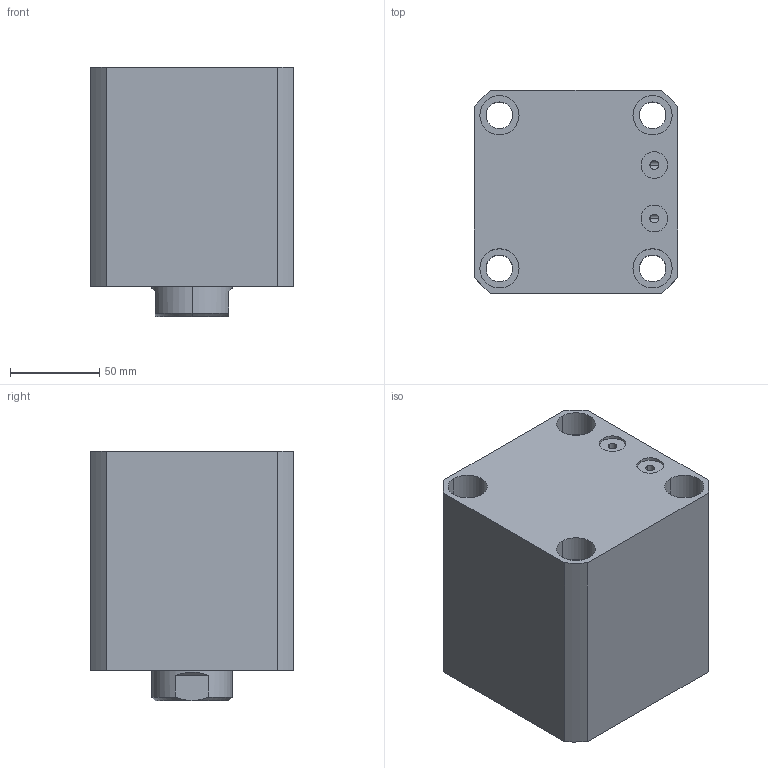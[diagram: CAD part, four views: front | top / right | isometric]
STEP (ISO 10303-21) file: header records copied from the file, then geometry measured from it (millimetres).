
FILE_DESCRIPTION (( 'STEP AP214' ), '1' );
FILE_NAME ('chtb-sdmb80x45n_asm.STEP', '2018-05-25T03:34:07', ( 'Windows' ), ( 'Microsoft' ), 'SwSTEP 2.0', 'SolidWorks 2015', '' );
FILE_SCHEMA (( 'AUTOMOTIVE_DESIGN' ));
Length unit declared in the file: millimetre
Products named in the file (4): CHTB-SDMB80X45NBT; CHTB-SD80X45NHSG; CHTB-SD80QG; chtb-sdmb80x45n_asm
Assembly tree (3 placements, depth 2):
  chtb-sdmb80x45n_asm
    CHTB-SD80QG
    CHTB-SD80X45NHSG
    CHTB-SDMB80X45NBT
Bounding box: 114 x 114 x 140 mm (x, y, z)
Volume: 1299913.4 mm3; surface area: 196235.7 mm2
Topology: 3 solids, 3 shells, 190 faces, 516 edges, 345 vertices
Faces by surface type: cylinder 107, plane 35, torus 18, cone 16, bspline 14
Entity records: 15174 total; most frequent: CARTESIAN_POINT 10467, ORIENTED_EDGE 1020, DIRECTION 879, EDGE_CURVE 510, AXIS2_PLACEMENT_3D 368, VERTEX_POINT 345, EDGE_LOOP 227, ADVANCED_FACE 190
